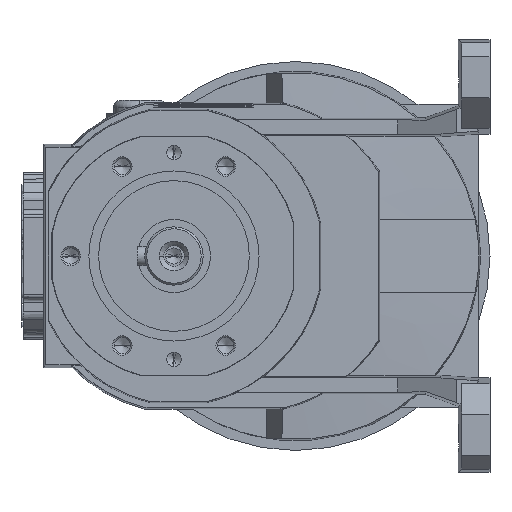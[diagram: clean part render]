
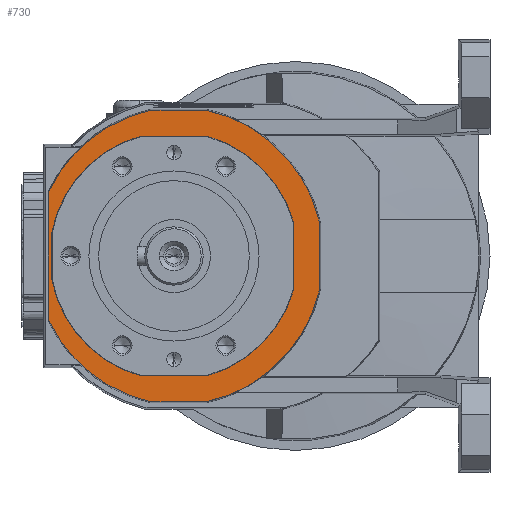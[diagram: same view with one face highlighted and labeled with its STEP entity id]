
A CAD part, left-side view. The second image highlights one B-rep face of the part: STEP entity #730.
In plain terms, the highlighted planar face has unit normal (-1, 0, 0).
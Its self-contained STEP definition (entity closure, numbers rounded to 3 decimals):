
#730 = ADVANCED_FACE( '', ( #3181, #3182 ), #3183, .T. );
#3181 = FACE_BOUND( '', #7744, .T. );
#3182 = FACE_OUTER_BOUND( '', #7745, .T. );
#3183 = PLANE( '', #7746 );
#7744 = EDGE_LOOP( '', ( #13652, #13653, #13654, #13655, #13656, #13657, #13658, #13659 ) );
#7745 = EDGE_LOOP( '', ( #13660, #13661, #13662, #13663, #13664, #13665, #13666, #13667 ) );
#7746 = AXIS2_PLACEMENT_3D( '', #13668, #13669, #13670 );
#13652 = ORIENTED_EDGE( '', *, *, #31249, .T. );
#13653 = ORIENTED_EDGE( '', *, *, #31237, .F. );
#13654 = ORIENTED_EDGE( '', *, *, #31291, .T. );
#13655 = ORIENTED_EDGE( '', *, *, #31259, .T. );
#13656 = ORIENTED_EDGE( '', *, *, #31247, .T. );
#13657 = ORIENTED_EDGE( '', *, *, #31242, .T. );
#13658 = ORIENTED_EDGE( '', *, *, #30836, .T. );
#13659 = ORIENTED_EDGE( '', *, *, #30814, .F. );
#13660 = ORIENTED_EDGE( '', *, *, #31254, .T. );
#13661 = ORIENTED_EDGE( '', *, *, #30820, .T. );
#13662 = ORIENTED_EDGE( '', *, *, #30844, .T. );
#13663 = ORIENTED_EDGE( '', *, *, #31240, .T. );
#13664 = ORIENTED_EDGE( '', *, *, #31253, .F. );
#13665 = ORIENTED_EDGE( '', *, *, #31267, .T. );
#13666 = ORIENTED_EDGE( '', *, *, #31270, .F. );
#13667 = ORIENTED_EDGE( '', *, *, #31246, .T. );
#13668 = CARTESIAN_POINT( '', ( -86., 46., -30.75 ) );
#13669 = DIRECTION( '', ( -1., 0., 0. ) );
#13670 = DIRECTION( '', ( 0., 0., 1. ) );
#30814 = EDGE_CURVE( '', #37039, #37042, #37043, .T. );
#30820 = EDGE_CURVE( '', #37048, #37052, #37054, .T. );
#30836 = EDGE_CURVE( '', #37076, #37042, #37077, .T. );
#30844 = EDGE_CURVE( '', #37052, #37089, #37091, .T. );
#31237 = EDGE_CURVE( '', #37730, #37732, #37733, .T. );
#31240 = EDGE_CURVE( '', #37089, #37735, #37737, .T. );
#31242 = EDGE_CURVE( '', #37738, #37076, #37740, .T. );
#31246 = EDGE_CURVE( '', #37742, #37746, #37748, .T. );
#31247 = EDGE_CURVE( '', #37749, #37738, #37750, .T. );
#31249 = EDGE_CURVE( '', #37039, #37732, #37752, .T. );
#31253 = EDGE_CURVE( '', #37757, #37735, #37759, .T. );
#31254 = EDGE_CURVE( '', #37746, #37048, #37760, .T. );
#31259 = EDGE_CURVE( '', #37768, #37749, #37769, .T. );
#31267 = EDGE_CURVE( '', #37757, #37781, #37783, .T. );
#31270 = EDGE_CURVE( '', #37742, #37781, #37786, .T. );
#31291 = EDGE_CURVE( '', #37730, #37768, #37813, .T. );
#37039 = VERTEX_POINT( '', #47305 );
#37042 = VERTEX_POINT( '', #47317 );
#37043 = LINE( '', #47318, #47319 );
#37048 = VERTEX_POINT( '', #47334 );
#37052 = VERTEX_POINT( '', #47348 );
#37054 = LINE( '', #47359, #47360 );
#37076 = VERTEX_POINT( '', #47385 );
#37077 = CIRCLE( '', #47386, 51.175 );
#37089 = VERTEX_POINT( '', #47418 );
#37091 = CIRCLE( '', #47429, 61.501 );
#37730 = VERTEX_POINT( '', #48642 );
#37732 = VERTEX_POINT( '', #48653 );
#37733 = LINE( '', #48654, #48655 );
#37735 = VERTEX_POINT( '', #48666 );
#37737 = LINE( '', #48677, #48678 );
#37738 = VERTEX_POINT( '', #48679 );
#37740 = LINE( '', #48690, #48691 );
#37742 = VERTEX_POINT( '', #48693 );
#37746 = VERTEX_POINT( '', #48707 );
#37748 = LINE( '', #48718, #48719 );
#37749 = VERTEX_POINT( '', #48720 );
#37750 = CIRCLE( '', #48721, 51.175 );
#37752 = CIRCLE( '', #48732, 51.175 );
#37757 = VERTEX_POINT( '', #48737 );
#37759 = CIRCLE( '', #48741, 61.501 );
#37760 = CIRCLE( '', #48742, 61.501 );
#37768 = VERTEX_POINT( '', #48754 );
#37769 = LINE( '', #48755, #48756 );
#37781 = VERTEX_POINT( '', #48782 );
#37783 = LINE( '', #48786, #48787 );
#37786 = CIRCLE( '', #48792, 61.501 );
#37813 = CIRCLE( '', #48825, 51.175 );
#47305 = CARTESIAN_POINT( '', ( -86., 0.756, -13.922 ) );
#47317 = CARTESIAN_POINT( '', ( -86., 0.756, 13.922 ) );
#47318 = CARTESIAN_POINT( '', ( -86., 0.756, -40. ) );
#47319 = VECTOR( '', #64106, 1. );
#47334 = CARTESIAN_POINT( '', ( -86., -10., -13.504 ) );
#47348 = CARTESIAN_POINT( '', ( -86., -10., 13.504 ) );
#47359 = CARTESIAN_POINT( '', ( -86., -10., -35.375 ) );
#47360 = VECTOR( '', #64109, 1. );
#47385 = CARTESIAN_POINT( '', ( -86., 36.078, 49.244 ) );
#47386 = AXIS2_PLACEMENT_3D( '', #64149, #64150, #64151 );
#47418 = CARTESIAN_POINT( '', ( -86., 36.496, 60. ) );
#47429 = AXIS2_PLACEMENT_3D( '', #64161, #64162, #64163 );
#48642 = CARTESIAN_POINT( '', ( -86., 63.922, -49.244 ) );
#48653 = CARTESIAN_POINT( '', ( -86., 36.078, -49.244 ) );
#48654 = CARTESIAN_POINT( '', ( -86., 100., -49.244 ) );
#48655 = VECTOR( '', #64664, 1. );
#48666 = CARTESIAN_POINT( '', ( -86., 59.504, 60. ) );
#48677 = CARTESIAN_POINT( '', ( -86., 73., 60. ) );
#48678 = VECTOR( '', #64665, 1. );
#48679 = CARTESIAN_POINT( '', ( -86., 63.922, 49.244 ) );
#48690 = CARTESIAN_POINT( '', ( -86., 100., 49.244 ) );
#48691 = VECTOR( '', #64666, 1. );
#48693 = CARTESIAN_POINT( '', ( -86., 59.504, -60. ) );
#48707 = CARTESIAN_POINT( '', ( -86., 36.496, -60. ) );
#48718 = CARTESIAN_POINT( '', ( -86., 73., -60. ) );
#48719 = VECTOR( '', #64668, 1. );
#48720 = CARTESIAN_POINT( '', ( -86., 100.244, 9.713 ) );
#48721 = AXIS2_PLACEMENT_3D( '', #64669, #64670, #64671 );
#48732 = AXIS2_PLACEMENT_3D( '', #64672, #64673, #64674 );
#48737 = CARTESIAN_POINT( '', ( -86., 101.5, 26.497 ) );
#48741 = AXIS2_PLACEMENT_3D( '', #64681, #64682, #64683 );
#48742 = AXIS2_PLACEMENT_3D( '', #64684, #64685, #64686 );
#48754 = CARTESIAN_POINT( '', ( -86., 100.244, -9.713 ) );
#48755 = CARTESIAN_POINT( '', ( -86., 100.244, -70. ) );
#48756 = VECTOR( '', #64693, 1. );
#48782 = CARTESIAN_POINT( '', ( -86., 101.5, -26.497 ) );
#48786 = CARTESIAN_POINT( '', ( -86., 101.5, -50.375 ) );
#48787 = VECTOR( '', #64699, 1. );
#48792 = AXIS2_PLACEMENT_3D( '', #64702, #64703, #64704 );
#48825 = AXIS2_PLACEMENT_3D( '', #64753, #64754, #64755 );
#64106 = DIRECTION( '', ( 0., 0., 1. ) );
#64109 = DIRECTION( '', ( 0., 0., 1. ) );
#64149 = CARTESIAN_POINT( '', ( -86., 50., 0. ) );
#64150 = DIRECTION( '', ( 1., 0., 0. ) );
#64151 = DIRECTION( '', ( 0., 1., 0. ) );
#64161 = CARTESIAN_POINT( '', ( -86., 50., 0. ) );
#64162 = DIRECTION( '', ( -1., 0., 0. ) );
#64163 = DIRECTION( '', ( 0., 0., -1. ) );
#64664 = DIRECTION( '', ( 0., -1., 0. ) );
#64665 = DIRECTION( '', ( 0., 1., 0. ) );
#64666 = DIRECTION( '', ( 0., -1., 0. ) );
#64668 = DIRECTION( '', ( 0., -1., 0. ) );
#64669 = CARTESIAN_POINT( '', ( -86., 50., 0. ) );
#64670 = DIRECTION( '', ( 1., 0., 0. ) );
#64671 = DIRECTION( '', ( 0., 1., 0. ) );
#64672 = CARTESIAN_POINT( '', ( -86., 50., 0. ) );
#64673 = DIRECTION( '', ( 1., 0., 0. ) );
#64674 = DIRECTION( '', ( 0., 1., 0. ) );
#64681 = CARTESIAN_POINT( '', ( -86., 46., 0. ) );
#64682 = DIRECTION( '', ( 1., 0., 0. ) );
#64683 = DIRECTION( '', ( 0., 0., -1. ) );
#64684 = CARTESIAN_POINT( '', ( -86., 50., 0. ) );
#64685 = DIRECTION( '', ( -1., 0., 0. ) );
#64686 = DIRECTION( '', ( 0., 0., -1. ) );
#64693 = DIRECTION( '', ( 0., 0., 1. ) );
#64699 = DIRECTION( '', ( 0., 0., -1. ) );
#64702 = CARTESIAN_POINT( '', ( -86., 46., 0. ) );
#64703 = DIRECTION( '', ( 1., 0., 0. ) );
#64704 = DIRECTION( '', ( 0., 0., -1. ) );
#64753 = CARTESIAN_POINT( '', ( -86., 50., 0. ) );
#64754 = DIRECTION( '', ( 1., 0., 0. ) );
#64755 = DIRECTION( '', ( 0., 1., 0. ) );
